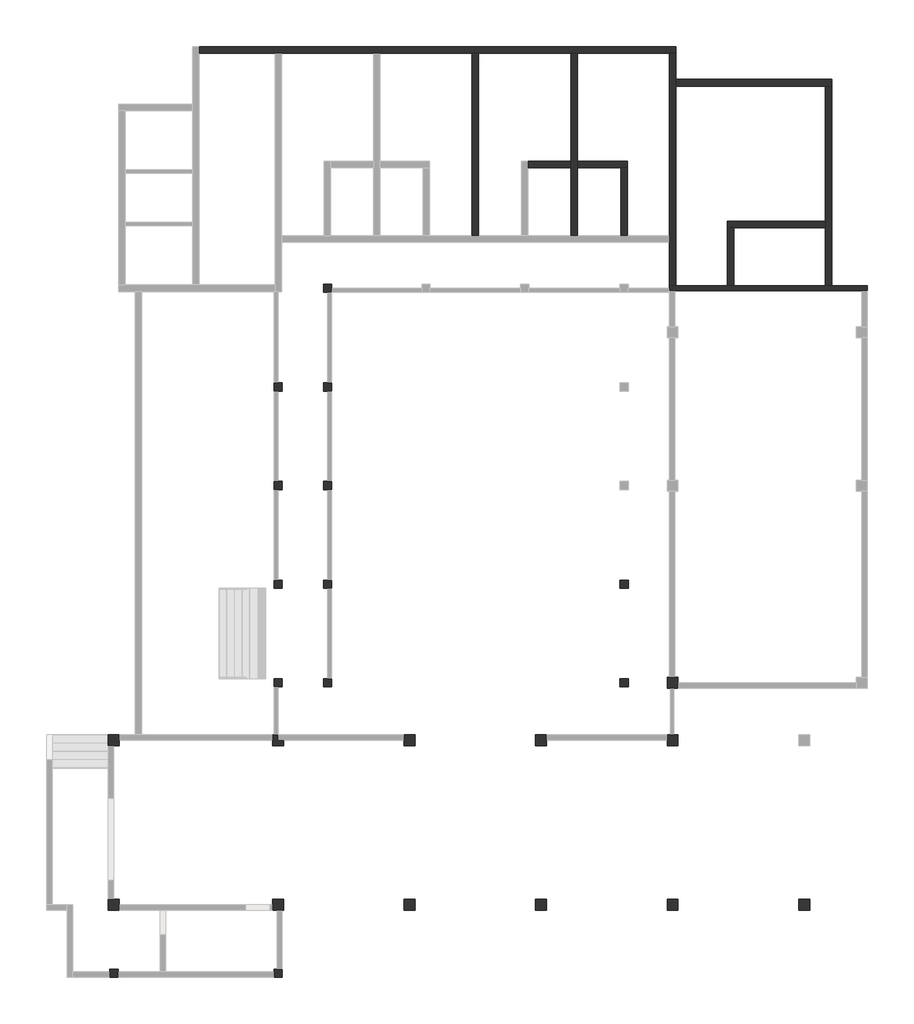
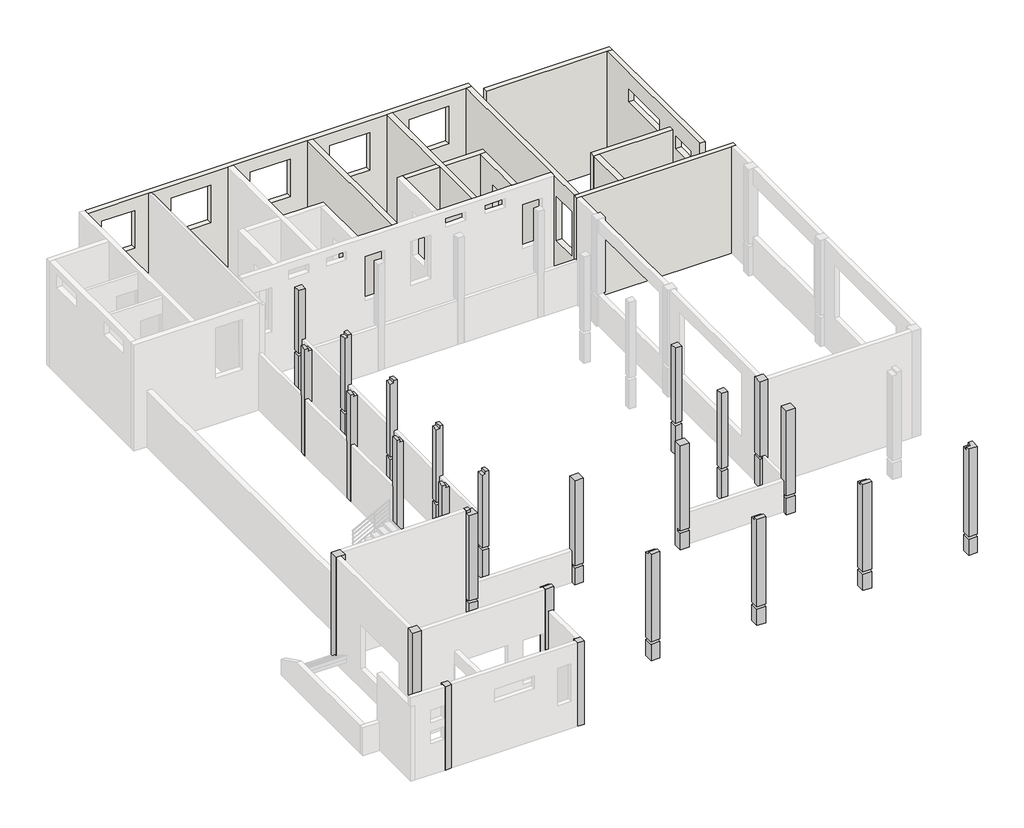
# One storey, part 2 of 3: 25 columns, 11 walls.
"""IFC4 building model written with IfcOpenShell, lengths in millimetres."""

from ifc_helpers import new_model, si_unit, frame, origin, place, context, project, spatial, polyline, outline, extrude, faceted_brep, element, save

model = new_model("IFC4")

# Units and contexts
model_context = context("Model", 3, world=origin())
ifc_project = project(units=[si_unit("LENGTHUNIT", "METRE", prefix="MILLI")], contexts=[model_context])

# Site, building, storey
site = spatial("IfcSite", under=ifc_project)
building = spatial("IfcBuilding", under=site)
storey = spatial("IfcBuildingStorey", under=building, Name="室外地坪", Elevation=-900.0)

# Columns
placement = place(None, origin())
element("IfcColumn", 1, ObjectType="混凝土 - 矩形 - 柱 : Z1-400 x 400mm", at=placement, inside=storey, context=model_context, shape_type="Brep", body=[
    faceted_brep([(11736.7377372, 2844.1658649, -900.0), (11736.7377372, 2644.1658649, -900.0), (11736.7377372, 2444.1658649, -900.0), (11576.7377372, 2444.1658649, -900.0), (11456.7377372, 2444.1658649, -900.0), (11336.7377372, 2444.1658649, -900.0), (11336.7377372, 2844.1658649, -900.0), (11416.7377372, 2844.1658649, -900.0), (11616.7377372, 2844.1658649, -900.0), (11736.7377372, 2844.1658649, 480.0), (11736.7377372, 2644.1658649, 480.0), (11736.7377372, 2644.1658649, 600.0), (11736.7377372, 2844.1658649, 600.0), (11736.7377372, 2844.1658649, 4200.0), (11736.7377372, 2644.1658649, 4200.0), (11736.7377372, 2444.1658649, 4200.0), (11336.7377372, 2444.1658649, 4200.0), (11336.7377372, 2444.1658649, 600.0), (11456.7377372, 2444.1658649, 600.0), (11456.7377372, 2444.1658649, 480.0), (11336.7377372, 2444.1658649, 480.0), (11336.7377372, 2844.1658649, 4200.0), (11336.7377372, 2844.1658649, 600.0), (11416.7377372, 2844.1658649, 4200.0), (11616.7377372, 2844.1658649, 4200.0), (11456.7377372, 2644.1658649, 480.0), (11336.7377372, 2844.1658649, 480.0), (11456.7377372, 2644.1658649, 600.0)], [[[0, 1, 2, 3, 4, 5, 6, 7, 8]], [[2, 1, 0, 9, 10, 11, 12, 13, 14, 15]], [[5, 4, 3, 2, 15, 16, 17, 18, 19, 20]], [[16, 21, 22, 17]], [[21, 23, 24, 13, 12, 22]], [[15, 14, 13, 24, 23, 21, 16]], [[19, 25, 10, 9, 26, 20]], [[11, 27, 18, 17, 22, 12]], [[25, 27, 11, 10]], [[27, 25, 19, 18]], [[6, 5, 20, 26]], [[0, 8, 7, 6, 26, 9]]]),
])
element("IfcColumn", 2, ObjectType="混凝土 - 矩形 - 柱 : Z1-400 x 400mm", at=placement, inside=storey, context=model_context, shape_type="Brep", body=[
    faceted_brep([(11736.7377372, 744.1658649, -900.0), (11736.7377372, 344.1658649, -900.0), (11336.7377372, 344.1658649, -900.0), (11336.7377372, 544.1658649, -900.0), (11336.7377372, 744.1658649, -900.0), (11456.7377372, 744.1658649, -900.0), (11576.7377372, 744.1658649, -900.0), (11736.7377372, 344.1658649, 0.0), (11736.7377372, 744.1658649, 0.0), (11736.7377372, 744.1658649, 4080.0), (11736.7377372, 344.1658649, 4080.0), (11336.7377372, 344.1658649, 0.0), (11336.7377372, 344.1658649, 4080.0), (11336.7377372, 344.1658649, -120.0), (11336.7377372, 549.1658649, -120.0), (11336.7377372, 549.1658649, 0.0), (11336.7377372, 744.1658649, 4080.0), (11336.7377372, 744.1658649, 600.0), (11576.7377372, 744.1658649, 0.0), (11576.7377372, 744.1658649, -120.0), (11736.7377372, 744.1658649, -120.0), (11576.7377372, 549.1658649, -120.0), (11736.7377372, 344.1658649, -120.0), (11576.7377372, 549.1658649, 0.0)], [[[0, 1, 2, 3, 4, 5, 6]], [[7, 8, 9, 10]], [[11, 7, 10, 12]], [[4, 3, 2, 13, 14, 15, 11, 12, 16, 17]], [[0, 6, 5, 4, 17, 16, 9, 8, 18, 19, 20]], [[19, 21, 14, 13, 22, 20]], [[23, 18, 8, 7, 11, 15]], [[21, 19, 18, 23]], [[1, 0, 20, 22]], [[2, 1, 22, 13]], [[21, 23, 15, 14]], [[10, 9, 16, 12]]]),
])
element("IfcColumn", 3, ObjectType="混凝土 - 矩形 - 柱 : Z1-400 x 400mm", at=placement, inside=storey, context=model_context, shape_type="Brep", body=[
    faceted_brep([(6936.7377372, 744.1658649, -900.0), (6936.7377372, 544.1658649, -900.0), (6936.7377372, 344.1658649, -900.0), (6536.7377372, 344.1658649, -900.0), (6536.7377372, 744.1658649, -900.0), (6936.7377372, 744.1658649, 600.0), (6936.7377372, 744.1658649, 4080.0), (6936.7377372, 344.1658649, 4080.0), (6936.7377372, 344.1658649, 0.0), (6936.7377372, 549.1658649, 0.0), (6936.7377372, 549.1658649, -120.0), (6936.7377372, 344.1658649, -120.0), (6536.7377372, 344.1658649, 0.0), (6536.7377372, 344.1658649, 4080.0), (6536.7377372, 344.1658649, -120.0), (6536.7377372, 549.1658649, -120.0), (6536.7377372, 549.1658649, 0.0), (6536.7377372, 744.1658649, 4080.0), (6536.7377372, 744.1658649, 0.0), (6536.7377372, 744.1658649, -120.0)], [[[0, 1, 2, 3, 4]], [[2, 1, 0, 5, 6, 7, 8, 9, 10, 11]], [[12, 8, 7, 13]], [[4, 3, 14, 15, 16, 12, 13, 17, 18, 19]], [[0, 4, 19, 18, 17, 6, 5]], [[11, 10, 15, 14]], [[9, 8, 12, 16]], [[3, 2, 11, 14]], [[15, 10, 9, 16]], [[7, 6, 17, 13]]]),
])
element("IfcColumn", 4, ObjectType="混凝土 - 矩形 - 柱 : Z1-400 x 400mm", at=placement, inside=storey, context=model_context, shape_type="Brep", body=[
    faceted_brep([(2136.7377372, 744.1658649, -900.0), (2136.7377372, 344.1658649, -900.0), (1736.7377372, 344.1658649, -900.0), (1736.7377372, 544.1658649, -900.0), (1736.7377372, 744.1658649, -900.0), (2136.7377372, 744.1658649, -120.0), (2136.7377372, 744.1658649, 0.0), (2136.7377372, 744.1658649, 4080.0), (2136.7377372, 344.1658649, 4080.0), (2136.7377372, 344.1658649, 0.0), (2136.7377372, 549.1658649, 0.0), (2136.7377372, 549.1658649, -120.0), (2136.7377372, 344.1658649, -120.0), (1736.7377372, 344.1658649, 0.0), (1736.7377372, 344.1658649, 4080.0), (1736.7377372, 344.1658649, -120.0), (1736.7377372, 549.1658649, -120.0), (1736.7377372, 549.1658649, 0.0), (1736.7377372, 744.1658649, 4080.0), (1736.7377372, 744.1658649, 600.0)], [[[0, 1, 2, 3, 4]], [[1, 0, 5, 6, 7, 8, 9, 10, 11, 12]], [[13, 9, 8, 14]], [[4, 3, 2, 15, 16, 17, 13, 14, 18, 19]], [[0, 4, 19, 18, 7, 6, 5]], [[11, 16, 15, 12]], [[17, 10, 9, 13]], [[16, 11, 10, 17]], [[2, 1, 12, 15]], [[8, 7, 18, 14]]]),
])
element("IfcColumn", 5, ObjectType="混凝土 - 矩形 - 柱 : Z1-400 x 400mm", at=placement, inside=storey, context=model_context, shape_type="Brep", body=[
    faceted_brep([(-2663.2622628, 744.1658649, -900.0), (-2663.2622628, 344.1658649, -900.0), (-3063.2622628, 344.1658649, -900.0), (-3063.2622628, 544.1658649, -900.0), (-3063.2622628, 744.1658649, -900.0), (-3013.2622628, 744.1658649, -900.0), (-2863.2622628, 744.1658649, -900.0), (-2663.2622628, 744.1658649, 4080.0), (-2663.2622628, 344.1658649, 4080.0), (-2663.2622628, 344.1658649, 0.0), (-2663.2622628, 549.1658649, 0.0), (-2663.2622628, 549.1658649, -120.0), (-2663.2622628, 344.1658649, -120.0), (-3063.2622628, 344.1658649, 0.0), (-3063.2622628, 344.1658649, 4080.0), (-3063.2622628, 344.1658649, -120.0), (-3063.2622628, 549.1658649, -120.0), (-3063.2622628, 549.1658649, 0.0), (-3063.2622628, 549.1658649, 4080.0), (-3063.2622628, 549.1658649, 4200.0), (-3063.2622628, 744.1658649, 4200.0), (-2868.2622628, 744.1658649, 4200.0), (-2868.2622628, 744.1658649, 4080.0), (-2868.2622628, 549.1658649, 4200.0), (-2868.2622628, 549.1658649, 4080.0)], [[[0, 1, 2, 3, 4, 5, 6]], [[1, 0, 7, 8, 9, 10, 11, 12]], [[13, 9, 8, 14]], [[4, 3, 2, 15, 16, 17, 13, 14, 18, 19, 20]], [[0, 6, 5, 4, 20, 21, 22, 7]], [[21, 20, 19, 23]], [[11, 16, 15, 12]], [[17, 10, 9, 13]], [[16, 11, 10, 17]], [[2, 1, 12, 15]], [[22, 24, 18, 14, 8, 7]], [[24, 23, 19, 18]], [[23, 24, 22, 21]]]),
])
element("IfcColumn", 6, ObjectType="混凝土 - 矩形 - 柱 : Z1-400 x 400mm", at=placement, inside=storey, context=model_context, shape_type="Brep", body=[
    faceted_brep([(-8663.2622628, 744.1658649, -900.0), (-8663.2622628, 544.1658649, -900.0), (-8663.2622628, 344.1658649, -900.0), (-8863.2622628, 344.1658649, -900.0), (-9063.2622628, 344.1658649, -900.0), (-9063.2622628, 744.1658649, -900.0), (-8663.2622628, 744.1658649, 4200.0), (-8663.2622628, 544.1658649, 4200.0), (-8663.2622628, 344.1658649, 4200.0), (-8663.2622628, 344.1658649, 0.0), (-8663.2622628, 549.1658649, 0.0), (-8663.2622628, 549.1658649, -120.0), (-8663.2622628, 344.1658649, -120.0), (-8863.2622628, 344.1658649, -120.0), (-8863.2622628, 344.1658649, 0.0), (-8863.2622628, 344.1658649, 4200.0), (-9063.2622628, 344.1658649, 4200.0), (-9063.2622628, 744.1658649, 4200.0), (-8863.2622628, 549.1658649, -120.0), (-8863.2622628, 549.1658649, 0.0)], [[[0, 1, 2, 3, 4, 5]], [[2, 1, 0, 6, 7, 8, 9, 10, 11, 12]], [[4, 3, 2, 12, 13, 14, 9, 8, 15, 16]], [[5, 4, 16, 17]], [[0, 5, 17, 6]], [[8, 7, 6, 17, 16, 15]], [[11, 18, 13, 12]], [[14, 19, 10, 9]], [[18, 19, 14, 13]], [[19, 18, 11, 10]]]),
])
element("IfcColumn", 7, ObjectType="混凝土 - 矩形 - 柱 : Z1-400 x 400mm", at=placement, inside=storey, context=model_context, shape_type="Brep", body=[
    faceted_brep([(-8663.2622628, -5255.8341351, -900.0), (-8663.2622628, -5455.8341351, -900.0), (-8663.2622628, -5655.8341351, -900.0), (-9063.2622628, -5655.8341351, -900.0), (-9063.2622628, -5255.8341351, -900.0), (-8863.2622628, -5255.8341351, -900.0), (-8663.2622628, -5655.8341351, -120.0), (-8663.2622628, -5255.8341351, -120.0), (-9063.2622628, -5255.8341351, -120.0), (-9063.2622628, -5655.8341351, -120.0)], [[[0, 1, 2, 3, 4, 5]], [[6, 7, 8, 9]], [[2, 1, 0, 7, 6]], [[3, 2, 6, 9]], [[4, 3, 9, 8]], [[0, 5, 4, 8, 7]]]),
    faceted_brep([(-8663.2622628, -5255.8341351, 4200.0), (-8663.2622628, -5455.8341351, 4200.0), (-8663.2622628, -5655.8341351, 4200.0), (-8663.2622628, -5655.8341351, 0.0), (-8663.2622628, -5255.8341351, 0.0), (-9063.2622628, -5655.8341351, 4200.0), (-9063.2622628, -5655.8341351, 0.0), (-9063.2622628, -5255.8341351, 4200.0), (-9063.2622628, -5255.8341351, 0.0), (-8863.2622628, -5255.8341351, 4200.0)], [[[0, 1, 2, 3, 4]], [[2, 5, 6, 3]], [[5, 7, 8, 6]], [[7, 9, 0, 4, 8]], [[2, 1, 0, 9, 7, 5]], [[4, 3, 6, 8]]]),
])
element("IfcColumn", 8, ObjectType="混凝土 - 矩形 - 柱 : Z1-400 x 400mm", at=placement, inside=storey, context=model_context, shape_type="Brep", body=[
    faceted_brep([(-2663.2622628, -5255.8341351, -900.0), (-2663.2622628, -5655.8341351, -900.0), (-2713.2622628, -5655.8341351, -900.0), (-2913.2622628, -5655.8341351, -900.0), (-3063.2622628, -5655.8341351, -900.0), (-3063.2622628, -5455.8341351, -900.0), (-3063.2622628, -5255.8341351, -900.0), (-2663.2622628, -5255.8341351, -120.0), (-2663.2622628, -5650.8341351, -120.0), (-2663.2622628, -5650.8341351, 0.0), (-2663.2622628, -5255.8341351, 0.0), (-2663.2622628, -5255.8341351, 4080.0), (-2663.2622628, -5460.8341351, 4080.0), (-2663.2622628, -5460.8341351, 4200.0), (-2663.2622628, -5655.8341351, 4200.0), (-3063.2622628, -5655.8341351, 4200.0), (-3063.2622628, -5655.8341351, 0.0), (-2908.2622628, -5655.8341351, 0.0), (-2908.2622628, -5655.8341351, -120.0), (-3063.2622628, -5655.8341351, -120.0), (-3063.2622628, -5460.8341351, 4200.0), (-3063.2622628, -5460.8341351, 4080.0), (-3063.2622628, -5255.8341351, 4080.0), (-3063.2622628, -5255.8341351, 0.0), (-2908.2622628, -5650.8341351, -120.0), (-3063.2622628, -5255.8341351, -120.0), (-2908.2622628, -5650.8341351, 0.0)], [[[0, 1, 2, 3, 4, 5, 6]], [[1, 0, 7, 8, 9, 10, 11, 12, 13, 14]], [[4, 3, 2, 1, 14, 15, 16, 17, 18, 19]], [[16, 15, 20, 21, 22, 23]], [[10, 23, 22, 11]], [[15, 14, 13, 20]], [[18, 24, 8, 7, 25, 19]], [[9, 26, 17, 16, 23, 10]], [[24, 26, 9, 8]], [[26, 24, 18, 17]], [[6, 5, 4, 19, 25]], [[0, 6, 25, 7]], [[21, 12, 11, 22]], [[12, 21, 20, 13]]]),
])
element("IfcColumn", 9, ObjectType="混凝土 - 矩形 - 柱 : Z1-400 x 400mm", at=placement, inside=storey, context=model_context, shape_type="Brep", body=[
    faceted_brep([(2136.7377372, -5255.8341351, -900.0), (2136.7377372, -5655.8341351, -900.0), (1736.7377372, -5655.8341351, -900.0), (1736.7377372, -5255.8341351, -900.0), (2136.7377372, -5655.8341351, -120.0), (2136.7377372, -5255.8341351, -120.0), (1736.7377372, -5255.8341351, -120.0), (1736.7377372, -5650.8341351, -120.0), (1736.7377372, -5655.8341351, -120.0)], [[[0, 1, 2, 3]], [[4, 5, 6, 7, 8]], [[1, 0, 5, 4]], [[2, 1, 4, 8]], [[3, 2, 8, 7, 6]], [[0, 3, 6, 5]]]),
    faceted_brep([(2136.7377372, -5655.8341351, 4200.0), (2136.7377372, -5655.8341351, 0.0), (2136.7377372, -5255.8341351, 0.0), (2136.7377372, -5255.8341351, 4080.0), (2136.7377372, -5460.8341351, 4080.0), (2136.7377372, -5460.8341351, 4200.0), (1736.7377372, -5655.8341351, 4200.0), (1736.7377372, -5655.8341351, 0.0), (1736.7377372, -5460.8341351, 4200.0), (1736.7377372, -5460.8341351, 4080.0), (1736.7377372, -5255.8341351, 4080.0), (1736.7377372, -5255.8341351, 0.0), (1736.7377372, -5650.8341351, 0.0)], [[[0, 1, 2, 3, 4, 5]], [[0, 6, 7, 1]], [[7, 6, 8, 9, 10, 11, 12]], [[2, 11, 10, 3]], [[6, 0, 5, 8]], [[2, 1, 7, 12, 11]], [[9, 4, 3, 10]], [[4, 9, 8, 5]]]),
])
element("IfcColumn", 10, ObjectType="混凝土 - 矩形 - 柱 : Z1-400 x 400mm", at=placement, inside=storey, context=model_context, shape_type="SweptSolid", body=[
    extrude(outline(polyline([(6936.7377372, -5255.8341351), (6936.7377372, -5655.8341351), (6536.7377372, -5655.8341351), (6536.7377372, -5255.8341351), (6936.7377372, -5255.8341351)])), frame((0.0, 0.0, -900.0), z_axis=(0.0, 0.0, 1.0), x_axis=(1.0, 0.0, 0.0)), (0.0, 0.0, 1.0), 780.0),
    extrude(outline(polyline([(-5655.8341351, 0.0), (-5655.8341351, 4200.0), (-5460.8341351, 4200.0), (-5460.8341351, 4080.0), (-5255.8341351, 4080.0), (-5255.8341351, 0.0), (-5655.8341351, 0.0)])), frame((6536.7377372, 0.0, 0.0), z_axis=(1.0, 0.0, 0.0), x_axis=(0.0, 1.0, 0.0)), (0.0, 0.0, 1.0), 400.0),
])
element("IfcColumn", 11, ObjectType="混凝土 - 矩形 - 柱 : Z1-400 x 400mm", at=placement, inside=storey, context=model_context, shape_type="SweptSolid", body=[
    extrude(outline(polyline([(11736.7377372, -5255.8341351), (11736.7377372, -5655.8341351), (11336.7377372, -5655.8341351), (11336.7377372, -5255.8341351), (11736.7377372, -5255.8341351)])), frame((0.0, 0.0, -900.0), z_axis=(0.0, 0.0, 1.0), x_axis=(1.0, 0.0, 0.0)), (0.0, 0.0, 1.0), 780.0),
    extrude(outline(polyline([(-5655.8341351, 0.0), (-5655.8341351, 4200.0), (-5460.8341351, 4200.0), (-5460.8341351, 4080.0), (-5255.8341351, 4080.0), (-5255.8341351, 0.0), (-5655.8341351, 0.0)])), frame((11336.7377372, 0.0, 0.0), z_axis=(1.0, 0.0, 0.0), x_axis=(0.0, 1.0, 0.0)), (0.0, 0.0, 1.0), 400.0),
])
element("IfcColumn", 12, ObjectType="混凝土 - 矩形 - 柱 : Z1-400 x 400mm", at=placement, inside=storey, context=model_context, shape_type="Brep", body=[
    faceted_brep([(16536.7377372, -5255.8341351, -900.0), (16536.7377372, -5655.8341351, -900.0), (16136.7377372, -5655.8341351, -900.0), (16136.7377372, -5255.8341351, -900.0), (16536.7377372, -5655.8341351, -120.0), (16536.7377372, -5255.8341351, -120.0), (16136.7377372, -5255.8341351, -120.0), (16136.7377372, -5655.8341351, -120.0)], [[[0, 1, 2, 3]], [[4, 5, 6, 7]], [[1, 0, 5, 4]], [[2, 1, 4, 7]], [[3, 2, 7, 6]], [[0, 3, 6, 5]]]),
    faceted_brep([(16536.7377372, -5255.8341351, 4200.0), (16536.7377372, -5655.8341351, 4200.0), (16536.7377372, -5655.8341351, 0.0), (16536.7377372, -5255.8341351, 0.0), (16136.7377372, -5655.8341351, 4200.0), (16136.7377372, -5655.8341351, 0.0), (16136.7377372, -5460.8341351, 4200.0), (16136.7377372, -5460.8341351, 4080.0), (16136.7377372, -5255.8341351, 4080.0), (16136.7377372, -5255.8341351, 0.0), (16341.7377372, -5255.8341351, 4080.0), (16341.7377372, -5255.8341351, 4200.0), (16341.7377372, -5460.8341351, 4200.0), (16341.7377372, -5460.8341351, 4080.0)], [[[0, 1, 2, 3]], [[1, 4, 5, 2]], [[5, 4, 6, 7, 8, 9]], [[0, 3, 9, 8, 10, 11]], [[1, 0, 11, 12, 6, 4]], [[3, 2, 5, 9]], [[7, 13, 10, 8]], [[13, 12, 11, 10]], [[12, 13, 7, 6]]]),
])
element("IfcColumn", 13, ObjectType="混凝土 - 矩形 - 柱 : Z2-300 x 300mm", at=placement, inside=storey, context=model_context, shape_type="Brep", body=[
    faceted_brep([(-913.2622628, 17194.1658649, -900.0), (-913.2622628, 17044.1658649, -900.0), (-913.2622628, 16894.1658649, -900.0), (-1063.2622628, 16894.1658649, -900.0), (-1213.2622628, 16894.1658649, -900.0), (-1213.2622628, 17194.1658649, -900.0), (-913.2622628, 17194.1658649, 1080.0), (-913.2622628, 17039.1658649, 1080.0), (-913.2622628, 17039.1658649, 1200.0), (-913.2622628, 17194.1658649, 1200.0), (-913.2622628, 17194.1658649, 4200.0), (-913.2622628, 16894.1658649, 4200.0), (-913.2622628, 16894.1658649, 1800.0), (-913.2622628, 16894.1658649, 1200.0), (-1213.2622628, 16894.1658649, 4200.0), (-1213.2622628, 16894.1658649, 1200.0), (-1063.2622628, 16894.1658649, 1200.0), (-1063.2622628, 16894.1658649, 1080.0), (-1213.2622628, 16894.1658649, 1080.0), (-1213.2622628, 17194.1658649, 4200.0), (-1213.2622628, 17194.1658649, 1200.0), (-1063.2622628, 17039.1658649, 1080.0), (-1213.2622628, 17194.1658649, 1080.0), (-1063.2622628, 17039.1658649, 1200.0)], [[[0, 1, 2, 3, 4, 5]], [[2, 1, 0, 6, 7, 8, 9, 10, 11, 12, 13]], [[4, 3, 2, 13, 12, 11, 14, 15, 16, 17, 18]], [[14, 19, 20, 15]], [[19, 10, 9, 20]], [[11, 10, 19, 14]], [[17, 21, 7, 6, 22, 18]], [[8, 23, 16, 15, 20, 9]], [[21, 23, 8, 7]], [[0, 5, 22, 6]], [[23, 21, 17, 16]], [[5, 4, 18, 22]]]),
])
element("IfcColumn", 14, ObjectType="混凝土 - 矩形 - 柱 : Z2-300 x 300mm", at=placement, inside=storey, context=model_context, shape_type="SweptSolid", body=[
    extrude(outline(polyline([(9916.7377372, 2794.1658649), (9916.7377372, 2494.1658649), (9616.7377372, 2494.1658649), (9616.7377372, 2794.1658649), (9916.7377372, 2794.1658649)])), frame((0.0, 0.0, -900.0), z_axis=(0.0, 0.0, 1.0), x_axis=(1.0, 0.0, 0.0)), (0.0, 0.0, 1.0), 1380.0),
    extrude(outline(polyline([(9916.7377372, 2794.1658649), (9916.7377372, 2494.1658649), (9616.7377372, 2494.1658649), (9616.7377372, 2794.1658649), (9916.7377372, 2794.1658649)])), frame((0.0, 0.0, 600.0), z_axis=(0.0, 0.0, 1.0), x_axis=(1.0, 0.0, 0.0)), (0.0, 0.0, 1.0), 3600.0),
])
element("IfcColumn", 15, ObjectType="混凝土 - 矩形 - 柱 : Z2-300 x 300mm", at=placement, inside=storey, context=model_context, shape_type="SweptSolid", body=[
    extrude(outline(polyline([(9916.7377372, 6394.1658649), (9916.7377372, 6094.1658649), (9616.7377372, 6094.1658649), (9616.7377372, 6394.1658649), (9916.7377372, 6394.1658649)])), frame((0.0, 0.0, -900.0), z_axis=(0.0, 0.0, 1.0), x_axis=(1.0, 0.0, 0.0)), (0.0, 0.0, 1.0), 1380.0),
    extrude(outline(polyline([(9916.7377372, 6394.1658649), (9916.7377372, 6094.1658649), (9616.7377372, 6094.1658649), (9616.7377372, 6394.1658649), (9916.7377372, 6394.1658649)])), frame((0.0, 0.0, 600.0), z_axis=(0.0, 0.0, 1.0), x_axis=(1.0, 0.0, 0.0)), (0.0, 0.0, 1.0), 3600.0),
])
element("IfcColumn", 16, ObjectType="混凝土 - 矩形 - 柱 : Z2-300 x 300mm", at=placement, inside=storey, context=model_context, shape_type="Brep", body=[
    faceted_brep([(-913.2622628, 13594.1658649, -900.0), (-913.2622628, 13294.1658649, -900.0), (-1063.2622628, 13294.1658649, -900.0), (-1213.2622628, 13294.1658649, -900.0), (-1213.2622628, 13594.1658649, -900.0), (-1063.2622628, 13594.1658649, -900.0), (-913.2622628, 13294.1658649, 480.0), (-913.2622628, 13594.1658649, 480.0), (-1213.2622628, 13594.1658649, 480.0), (-1213.2622628, 13294.1658649, 480.0)], [[[0, 1, 2, 3, 4, 5]], [[6, 7, 8, 9]], [[1, 0, 7, 6]], [[3, 2, 1, 6, 9]], [[4, 3, 9, 8]], [[0, 5, 4, 8, 7]]]),
    faceted_brep([(-913.2622628, 13594.1658649, 4200.0), (-913.2622628, 13294.1658649, 4200.0), (-913.2622628, 13294.1658649, 1800.0), (-913.2622628, 13294.1658649, 600.0), (-913.2622628, 13594.1658649, 600.0), (-913.2622628, 13594.1658649, 1800.0), (-1063.2622628, 13294.1658649, 4200.0), (-1063.2622628, 13294.1658649, 4080.0), (-1213.2622628, 13294.1658649, 4080.0), (-1213.2622628, 13294.1658649, 600.0), (-1213.2622628, 13594.1658649, 600.0), (-1213.2622628, 13594.1658649, 4080.0), (-1063.2622628, 13594.1658649, 4080.0), (-1063.2622628, 13594.1658649, 4200.0)], [[[0, 1, 2, 3, 4, 5]], [[3, 2, 1, 6, 7, 8, 9]], [[10, 9, 8, 11]], [[0, 5, 4, 10, 11, 12, 13]], [[1, 0, 13, 6]], [[4, 3, 9, 10]], [[7, 12, 11, 8]], [[12, 7, 6, 13]]]),
])
element("IfcColumn", 17, ObjectType="混凝土 - 矩形 - 柱 : Z2-300 x 300mm", at=placement, inside=storey, context=model_context, shape_type="Brep", body=[
    faceted_brep([(-2713.2622628, 13594.1658649, -900.0), (-2713.2622628, 13294.1658649, -900.0), (-2863.2622628, 13294.1658649, -900.0), (-3013.2622628, 13294.1658649, -900.0), (-3013.2622628, 13594.1658649, -900.0), (-2863.2622628, 13594.1658649, -900.0), (-2713.2622628, 13594.1658649, 4080.0), (-2713.2622628, 13294.1658649, 4080.0), (-2868.2622628, 13294.1658649, 4080.0), (-2868.2622628, 13294.1658649, 4200.0), (-3013.2622628, 13294.1658649, 4200.0), (-3013.2622628, 13294.1658649, 4080.0), (-3013.2622628, 13294.1658649, 1800.0), (-3013.2622628, 13594.1658649, 4200.0), (-3013.2622628, 13594.1658649, 4080.0), (-3013.2622628, 13594.1658649, 1800.0), (-2868.2622628, 13594.1658649, 4200.0), (-2868.2622628, 13594.1658649, 4080.0)], [[[0, 1, 2, 3, 4, 5]], [[1, 0, 6, 7]], [[3, 2, 1, 7, 8, 9, 10, 11, 12]], [[4, 3, 12, 11, 10, 13, 14, 15]], [[0, 5, 4, 15, 14, 13, 16, 17, 6]], [[13, 10, 9, 16]], [[17, 8, 7, 6]], [[8, 17, 16, 9]]]),
])
element("IfcColumn", 18, ObjectType="混凝土 - 矩形 - 柱 : Z2-300 x 300mm", at=placement, inside=storey, context=model_context, shape_type="Brep", body=[
    faceted_brep([(-2713.2622628, 9994.1658649, -900.0), (-2713.2622628, 9694.1658649, -900.0), (-2863.2622628, 9694.1658649, -900.0), (-3013.2622628, 9694.1658649, -900.0), (-3013.2622628, 9994.1658649, -900.0), (-2863.2622628, 9994.1658649, -900.0), (-2713.2622628, 9994.1658649, 4080.0), (-2713.2622628, 9694.1658649, 4080.0), (-2868.2622628, 9694.1658649, 4080.0), (-2868.2622628, 9694.1658649, 4200.0), (-3013.2622628, 9694.1658649, 4200.0), (-3013.2622628, 9694.1658649, 4080.0), (-3013.2622628, 9694.1658649, 1800.0), (-3013.2622628, 9994.1658649, 4200.0), (-3013.2622628, 9994.1658649, 4080.0), (-3013.2622628, 9994.1658649, 1800.0), (-2868.2622628, 9994.1658649, 4200.0), (-2868.2622628, 9994.1658649, 4080.0)], [[[0, 1, 2, 3, 4, 5]], [[1, 0, 6, 7]], [[3, 2, 1, 7, 8, 9, 10, 11, 12]], [[4, 3, 12, 11, 10, 13, 14, 15]], [[0, 5, 4, 15, 14, 13, 16, 17, 6]], [[13, 10, 9, 16]], [[17, 8, 7, 6]], [[8, 17, 16, 9]]]),
])
element("IfcColumn", 19, ObjectType="混凝土 - 矩形 - 柱 : Z2-300 x 300mm", at=placement, inside=storey, context=model_context, shape_type="Brep", body=[
    faceted_brep([(-913.2622628, 9994.1658649, -900.0), (-913.2622628, 9694.1658649, -900.0), (-1063.2622628, 9694.1658649, -900.0), (-1213.2622628, 9694.1658649, -900.0), (-1213.2622628, 9994.1658649, -900.0), (-1063.2622628, 9994.1658649, -900.0), (-913.2622628, 9694.1658649, 480.0), (-913.2622628, 9994.1658649, 480.0), (-1213.2622628, 9994.1658649, 480.0), (-1213.2622628, 9694.1658649, 480.0)], [[[0, 1, 2, 3, 4, 5]], [[6, 7, 8, 9]], [[1, 0, 7, 6]], [[3, 2, 1, 6, 9]], [[4, 3, 9, 8]], [[0, 5, 4, 8, 7]]]),
    faceted_brep([(-913.2622628, 9994.1658649, 4200.0), (-913.2622628, 9694.1658649, 4200.0), (-913.2622628, 9694.1658649, 1800.0), (-913.2622628, 9694.1658649, 600.0), (-913.2622628, 9994.1658649, 600.0), (-913.2622628, 9994.1658649, 1800.0), (-1063.2622628, 9694.1658649, 4200.0), (-1063.2622628, 9694.1658649, 4080.0), (-1213.2622628, 9694.1658649, 4080.0), (-1213.2622628, 9694.1658649, 600.0), (-1213.2622628, 9994.1658649, 600.0), (-1213.2622628, 9994.1658649, 4080.0), (-1063.2622628, 9994.1658649, 4080.0), (-1063.2622628, 9994.1658649, 4200.0)], [[[0, 1, 2, 3, 4, 5]], [[3, 2, 1, 6, 7, 8, 9]], [[10, 9, 8, 11]], [[0, 5, 4, 10, 11, 12, 13]], [[1, 0, 13, 6]], [[4, 3, 9, 10]], [[7, 12, 11, 8]], [[12, 7, 6, 13]]]),
])
element("IfcColumn", 20, ObjectType="混凝土 - 矩形 - 柱 : Z2-300 x 300mm", at=placement, inside=storey, context=model_context, shape_type="Brep", body=[
    faceted_brep([(-2713.2622628, 6394.1658649, -900.0), (-2713.2622628, 6094.1658649, -900.0), (-3013.2622628, 6094.1658649, -900.0), (-3013.2622628, 6394.1658649, -900.0), (-2713.2622628, 6394.1658649, 4080.0), (-2713.2622628, 6094.1658649, 4080.0), (-2868.2622628, 6094.1658649, 4080.0), (-2868.2622628, 6094.1658649, 4200.0), (-3013.2622628, 6094.1658649, 4200.0), (-3013.2622628, 6094.1658649, -450.0), (-3013.2622628, 6094.1658649, -570.0), (-3013.2622628, 6394.1658649, 4200.0), (-2868.2622628, 6394.1658649, 4200.0), (-2868.2622628, 6394.1658649, 4080.0)], [[[0, 1, 2, 3]], [[1, 0, 4, 5]], [[2, 1, 5, 6, 7, 8, 9, 10]], [[3, 2, 10, 9, 8, 11]], [[0, 3, 11, 12, 13, 4]], [[11, 8, 7, 12]], [[13, 6, 5, 4]], [[6, 13, 12, 7]]]),
])
element("IfcColumn", 21, ObjectType="混凝土 - 矩形 - 柱 : Z2-300 x 300mm", at=placement, inside=storey, context=model_context, shape_type="Brep", body=[
    faceted_brep([(-913.2622628, 6394.1658649, -900.0), (-913.2622628, 6094.1658649, -900.0), (-1063.2622628, 6094.1658649, -900.0), (-1213.2622628, 6094.1658649, -900.0), (-1213.2622628, 6394.1658649, -900.0), (-1063.2622628, 6394.1658649, -900.0), (-913.2622628, 6094.1658649, 480.0), (-913.2622628, 6394.1658649, 480.0), (-1213.2622628, 6394.1658649, 480.0), (-1213.2622628, 6094.1658649, 480.0)], [[[0, 1, 2, 3, 4, 5]], [[6, 7, 8, 9]], [[1, 0, 7, 6]], [[3, 2, 1, 6, 9]], [[4, 3, 9, 8]], [[0, 5, 4, 8, 7]]]),
    faceted_brep([(-913.2622628, 6394.1658649, 4200.0), (-913.2622628, 6094.1658649, 4200.0), (-913.2622628, 6094.1658649, 1800.0), (-913.2622628, 6094.1658649, 600.0), (-913.2622628, 6394.1658649, 600.0), (-913.2622628, 6394.1658649, 1800.0), (-1063.2622628, 6094.1658649, 4200.0), (-1063.2622628, 6094.1658649, 4080.0), (-1213.2622628, 6094.1658649, 4080.0), (-1213.2622628, 6094.1658649, 600.0), (-1213.2622628, 6394.1658649, 600.0), (-1213.2622628, 6394.1658649, 4080.0), (-1063.2622628, 6394.1658649, 4080.0), (-1063.2622628, 6394.1658649, 4200.0)], [[[0, 1, 2, 3, 4, 5]], [[3, 2, 1, 6, 7, 8, 9]], [[10, 9, 8, 11]], [[0, 5, 4, 10, 11, 12, 13]], [[1, 0, 13, 6]], [[4, 3, 9, 10]], [[7, 12, 11, 8]], [[12, 7, 6, 13]]]),
])
element("IfcColumn", 22, ObjectType="混凝土 - 矩形 - 柱 : Z2-300 x 300mm", at=placement, inside=storey, context=model_context, shape_type="Brep", body=[
    faceted_brep([(-913.2622628, 2794.1658649, -900.0), (-913.2622628, 2494.1658649, -900.0), (-1213.2622628, 2494.1658649, -900.0), (-1213.2622628, 2794.1658649, -900.0), (-1063.2622628, 2794.1658649, -900.0), (-913.2622628, 2494.1658649, 480.0), (-913.2622628, 2794.1658649, 480.0), (-1213.2622628, 2794.1658649, 480.0), (-1213.2622628, 2494.1658649, 480.0)], [[[0, 1, 2, 3, 4]], [[5, 6, 7, 8]], [[1, 0, 6, 5]], [[2, 1, 5, 8]], [[3, 2, 8, 7]], [[0, 4, 3, 7, 6]]]),
    faceted_brep([(-913.2622628, 2794.1658649, 4200.0), (-913.2622628, 2494.1658649, 4200.0), (-913.2622628, 2494.1658649, 600.0), (-913.2622628, 2794.1658649, 600.0), (-913.2622628, 2794.1658649, 1800.0), (-1063.2622628, 2494.1658649, 4200.0), (-1063.2622628, 2494.1658649, 4080.0), (-1213.2622628, 2494.1658649, 4080.0), (-1213.2622628, 2494.1658649, 600.0), (-1213.2622628, 2794.1658649, 600.0), (-1213.2622628, 2794.1658649, 4080.0), (-1063.2622628, 2794.1658649, 4080.0), (-1063.2622628, 2794.1658649, 4200.0)], [[[0, 1, 2, 3, 4]], [[2, 1, 5, 6, 7, 8]], [[9, 8, 7, 10]], [[0, 4, 3, 9, 10, 11, 12]], [[1, 0, 12, 5]], [[3, 2, 8, 9]], [[6, 11, 10, 7]], [[11, 6, 5, 12]]]),
])
element("IfcColumn", 23, ObjectType="混凝土 - 矩形 - 柱 : Z2-300 x 300mm", at=placement, inside=storey, context=model_context, shape_type="Brep", body=[
    faceted_brep([(-2713.2622628, 2794.1658649, -900.0), (-2713.2622628, 2494.1658649, -900.0), (-2863.2622628, 2494.1658649, -900.0), (-3013.2622628, 2494.1658649, -900.0), (-3013.2622628, 2794.1658649, -900.0), (-2713.2622628, 2794.1658649, 4080.0), (-2713.2622628, 2494.1658649, 4080.0), (-2868.2622628, 2494.1658649, 4080.0), (-2868.2622628, 2494.1658649, 4200.0), (-3013.2622628, 2494.1658649, 4200.0), (-3013.2622628, 2494.1658649, 4080.0), (-3013.2622628, 2494.1658649, 1800.0), (-3013.2622628, 2794.1658649, 4200.0), (-3013.2622628, 2794.1658649, 4080.0), (-2868.2622628, 2794.1658649, 4200.0), (-2868.2622628, 2794.1658649, 4080.0)], [[[0, 1, 2, 3, 4]], [[1, 0, 5, 6]], [[3, 2, 1, 6, 7, 8, 9, 10, 11]], [[4, 3, 11, 10, 9, 12, 13]], [[0, 4, 13, 12, 14, 15, 5]], [[12, 9, 8, 14]], [[15, 7, 6, 5]], [[7, 15, 14, 8]]]),
])
element("IfcColumn", 24, ObjectType="混凝土 - 矩形 - 柱 : Z2-300 x 300mm", at=placement, inside=storey, context=model_context, shape_type="Brep", body=[
    faceted_brep([(-8713.2622628, -7805.8341351, -900.0), (-8713.2622628, -7905.8341351, -900.0), (-8713.2622628, -8105.8341351, -900.0), (-9013.2622628, -8105.8341351, -900.0), (-9013.2622628, -7905.8341351, -900.0), (-9013.2622628, -7805.8341351, -900.0), (-8713.2622628, -7805.8341351, 3100.0), (-8713.2622628, -7905.8341351, 3100.0), (-8713.2622628, -8105.8341351, 3100.0), (-9013.2622628, -8105.8341351, 3100.0), (-9013.2622628, -7905.8341351, 3100.0), (-9013.2622628, -7805.8341351, 3100.0)], [[[0, 1, 2, 3, 4, 5]], [[6, 7, 8, 2, 1, 0]], [[8, 9, 3, 2]], [[9, 10, 11, 5, 4, 3]], [[11, 6, 0, 5]], [[6, 11, 10, 9, 8, 7]]]),
])
element("IfcColumn", 25, ObjectType="混凝土 - 矩形 - 柱 : Z2-300 x 300mm", at=placement, inside=storey, context=model_context, shape_type="Brep", body=[
    faceted_brep([(-2713.2622628, -7805.8341351, -900.0), (-2713.2622628, -8105.8341351, -900.0), (-3013.2622628, -8105.8341351, -900.0), (-3013.2622628, -7905.8341351, -900.0), (-3013.2622628, -7805.8341351, -900.0), (-2913.2622628, -7805.8341351, -900.0), (-2713.2622628, -7805.8341351, 3100.0), (-2713.2622628, -8105.8341351, 3100.0), (-3013.2622628, -8105.8341351, 3100.0), (-3013.2622628, -7905.8341351, 3100.0), (-3013.2622628, -7805.8341351, 3100.0), (-2913.2622628, -7805.8341351, 3100.0)], [[[0, 1, 2, 3, 4, 5]], [[6, 7, 1, 0]], [[7, 8, 2, 1]], [[8, 9, 10, 4, 3, 2]], [[10, 11, 6, 0, 5, 4]], [[6, 11, 10, 9, 8, 7]]]),
])

# Walls
element("IfcWall", 26, ObjectType="240mm厚墙", at=placement, inside=storey, context=model_context, shape_type="Brep", body=[
    faceted_brep([(-5743.2622628, 25624.1658649, -900.0), (-2983.2622628, 25624.1658649, -900.0), (-2743.2622628, 25624.1658649, -900.0), (616.7377372, 25624.1658649, -900.0), (856.7377372, 25624.1658649, -900.0), (4216.7377372, 25624.1658649, -900.0), (4456.7377372, 25624.1658649, -900.0), (7816.7377372, 25624.1658649, -900.0), (8056.7377372, 25624.1658649, -900.0), (11416.7377372, 25624.1658649, -900.0), (11656.7377372, 25624.1658649, -900.0), (11656.7377372, 25624.1658649, 4200.0), (11416.7377372, 25624.1658649, 4200.0), (8056.7377372, 25624.1658649, 4200.0), (7816.7377372, 25624.1658649, 4200.0), (4456.7377372, 25624.1658649, 4200.0), (4216.7377372, 25624.1658649, 4200.0), (856.7377372, 25624.1658649, 4200.0), (616.7377372, 25624.1658649, 4200.0), (-2743.2622628, 25624.1658649, 4200.0), (-2983.2622628, 25624.1658649, 4200.0), (-5743.2622628, 25624.1658649, 4200.0), (-5113.2622628, 25624.1658649, 3600.0), (-3613.2622628, 25624.1658649, 3600.0), (-3613.2622628, 25624.1658649, 1800.0), (-5113.2622628, 25624.1658649, 1800.0), (-163.2622628, 25624.1658649, 3600.0), (-163.2622628, 25624.1658649, 1800.0), (-1963.2622628, 25624.1658649, 1800.0), (-1963.2622628, 25624.1658649, 3600.0), (1636.7377372, 25624.1658649, 3600.0), (3436.7377372, 25624.1658649, 3600.0), (3436.7377372, 25624.1658649, 1800.0), (1636.7377372, 25624.1658649, 1800.0), (5236.7377372, 25624.1658649, 3600.0), (7036.7377372, 25624.1658649, 3600.0), (7036.7377372, 25624.1658649, 1800.0), (5236.7377372, 25624.1658649, 1800.0), (8836.7377372, 25624.1658649, 3600.0), (10636.7377372, 25624.1658649, 3600.0), (10636.7377372, 25624.1658649, 1800.0), (8836.7377372, 25624.1658649, 1800.0), (-5743.2622628, 25864.1658649, -900.0), (-5743.2622628, 25864.1658649, 4200.0), (11656.7377372, 25864.1658649, 4200.0), (11656.7377372, 25864.1658649, -900.0), (-5113.2622628, 25864.1658649, 3600.0), (-5113.2622628, 25864.1658649, 1800.0), (-3613.2622628, 25864.1658649, 1800.0), (-3613.2622628, 25864.1658649, 3600.0), (-163.2622628, 25864.1658649, 3600.0), (-1963.2622628, 25864.1658649, 3600.0), (-1963.2622628, 25864.1658649, 1800.0), (-163.2622628, 25864.1658649, 1800.0), (1636.7377372, 25864.1658649, 3600.0), (1636.7377372, 25864.1658649, 1800.0), (3436.7377372, 25864.1658649, 1800.0), (3436.7377372, 25864.1658649, 3600.0), (5236.7377372, 25864.1658649, 3600.0), (5236.7377372, 25864.1658649, 1800.0), (7036.7377372, 25864.1658649, 1800.0), (7036.7377372, 25864.1658649, 3600.0), (8836.7377372, 25864.1658649, 3600.0), (8836.7377372, 25864.1658649, 1800.0), (10636.7377372, 25864.1658649, 1800.0), (10636.7377372, 25864.1658649, 3600.0)], [[[0, 1, 2, 3, 4, 5, 6, 7, 8, 9, 10, 11, 12, 13, 14, 15, 16, 17, 18, 19, 20, 21], [22, 23, 24, 25], [26, 27, 28, 29], [30, 31, 32, 33], [34, 35, 36, 37], [38, 39, 40, 41]], [[42, 43, 44, 45], [46, 47, 48, 49], [50, 51, 52, 53], [54, 55, 56, 57], [58, 59, 60, 61], [62, 63, 64, 65]], [[10, 9, 8, 7, 6, 5, 4, 3, 2, 1, 0, 42, 45]], [[21, 20, 19, 18, 17, 16, 15, 14, 13, 12, 11, 44, 43]], [[0, 21, 43, 42]], [[11, 10, 45, 44]], [[47, 46, 22, 25]], [[48, 47, 25, 24]], [[49, 48, 24, 23]], [[46, 49, 23, 22]], [[27, 26, 50, 53]], [[28, 27, 53, 52]], [[29, 28, 52, 51]], [[26, 29, 51, 50]], [[55, 54, 30, 33]], [[56, 55, 33, 32]], [[57, 56, 32, 31]], [[54, 57, 31, 30]], [[59, 58, 34, 37]], [[60, 59, 37, 36]], [[61, 60, 36, 35]], [[58, 61, 35, 34]], [[63, 62, 38, 41]], [[64, 63, 41, 40]], [[65, 64, 40, 39]], [[62, 65, 39, 38]]]),
])
element("IfcWall", 27, ObjectType="240mm厚墙", at=placement, inside=storey, context=model_context, shape_type="Brep", body=[
    faceted_brep([(11416.7377372, 25624.1658649, -900.0), (11416.7377372, 18964.1658649, -900.0), (11416.7377372, 18724.1658649, -900.0), (11416.7377372, 17144.1658649, -900.0), (11416.7377372, 17144.1658649, 4200.0), (11416.7377372, 18724.1658649, 4200.0), (11416.7377372, 18964.1658649, 4200.0), (11416.7377372, 25624.1658649, 4200.0), (11416.7377372, 17334.1658649, 1200.0), (11416.7377372, 18534.1658649, 1200.0), (11416.7377372, 18534.1658649, 3300.0), (11416.7377372, 17334.1658649, 3300.0), (11656.7377372, 25624.1658649, -900.0), (11656.7377372, 25624.1658649, 4200.0), (11656.7377372, 17144.1658649, 4200.0), (11656.7377372, 17144.1658649, -900.0), (11656.7377372, 24424.1658649, -900.0), (11656.7377372, 24664.1658649, -900.0), (11656.7377372, 17334.1658649, 1200.0), (11656.7377372, 17334.1658649, 3300.0), (11656.7377372, 18534.1658649, 3300.0), (11656.7377372, 18534.1658649, 1200.0)], [[[0, 1, 2, 3, 4, 5, 6, 7], [8, 9, 10, 11]], [[12, 13, 14, 15, 16, 17], [18, 19, 20, 21]], [[3, 2, 1, 0, 12, 17, 16, 15]], [[7, 6, 5, 4, 14, 13]], [[0, 7, 13, 12]], [[3, 15, 14, 4]], [[19, 18, 8, 11]], [[20, 19, 11, 10]], [[21, 20, 10, 9]], [[18, 21, 9, 8]]]),
])
element("IfcWall", 28, ObjectType="240mm厚墙", at=placement, inside=storey, context=model_context, shape_type="Brep", body=[
    faceted_brep([(11656.7377372, 24424.1658649, 4700.0), (11656.7377372, 24424.1658649, -900.0), (17116.7377372, 24424.1658649, -900.0), (17356.7377372, 24424.1658649, -900.0), (17356.7377372, 24424.1658649, 4700.0), (17116.7377372, 24424.1658649, 4700.0), (11656.7377372, 24664.1658649, -900.0), (11656.7377372, 24664.1658649, 4700.0), (17356.7377372, 24664.1658649, 4700.0), (17356.7377372, 24664.1658649, -900.0)], [[[0, 1, 2, 3, 4, 5]], [[6, 7, 8, 9]], [[3, 2, 1, 6, 9]], [[0, 5, 4, 8, 7]], [[4, 3, 9, 8]], [[0, 7, 6, 1]]]),
])
element("IfcWall", 29, ObjectType="240mm厚墙", at=placement, inside=storey, context=model_context, shape_type="Brep", body=[
    faceted_brep([(17116.7377372, 24424.1658649, -900.0), (17116.7377372, 19484.1658649, -900.0), (17116.7377372, 19244.1658649, -900.0), (17116.7377372, 17144.1658649, -900.0), (17116.7377372, 17144.1658649, 4700.0), (17116.7377372, 24424.1658649, 4700.0), (17116.7377372, 17844.1658649, 3900.0), (17116.7377372, 17844.1658649, 3300.0), (17116.7377372, 19044.1658649, 3300.0), (17116.7377372, 19044.1658649, 3900.0), (17116.7377372, 22744.1658649, 3300.0), (17116.7377372, 22744.1658649, 3900.0), (17116.7377372, 20344.1658649, 3900.0), (17116.7377372, 20344.1658649, 3300.0), (17356.7377372, 17144.1658649, -900.0), (17356.7377372, 24424.1658649, -900.0), (17356.7377372, 24424.1658649, 4700.0), (17356.7377372, 17144.1658649, 4700.0), (17356.7377372, 17844.1658649, 3300.0), (17356.7377372, 17844.1658649, 3900.0), (17356.7377372, 19044.1658649, 3900.0), (17356.7377372, 19044.1658649, 3300.0), (17356.7377372, 22744.1658649, 3900.0), (17356.7377372, 22744.1658649, 3300.0), (17356.7377372, 20344.1658649, 3300.0), (17356.7377372, 20344.1658649, 3900.0)], [[[0, 1, 2, 3, 4, 5], [6, 7, 8, 9], [10, 11, 12, 13]], [[14, 15, 16, 17], [18, 19, 20, 21], [22, 23, 24, 25]], [[3, 2, 1, 0, 15, 14]], [[5, 4, 17, 16]], [[0, 5, 16, 15]], [[3, 14, 17, 4]], [[18, 7, 6, 19]], [[20, 9, 8, 21]], [[7, 18, 21, 8]], [[9, 20, 19, 6]], [[11, 10, 23, 22]], [[12, 11, 22, 25]], [[13, 12, 25, 24]], [[10, 13, 24, 23]]]),
])
element("IfcWall", 30, ObjectType="240mm厚墙", at=placement, inside=storey, context=model_context, shape_type="SweptSolid", body=[
    extrude(outline(polyline([(4216.7377372, 18964.1658649), (4216.7377372, 25624.1658649), (4456.7377372, 25624.1658649), (4456.7377372, 18964.1658649), (4216.7377372, 18964.1658649)])), frame((0.0, 0.0, -900.0), z_axis=(0.0, 0.0, 1.0), x_axis=(1.0, 0.0, 0.0)), (0.0, 0.0, 1.0), 5100.0),
])
element("IfcWall", 31, ObjectType="240mm厚墙", at=placement, inside=storey, context=model_context, shape_type="Brep", body=[
    faceted_brep([(7816.7377372, 25624.1658649, -900.0), (7816.7377372, 21684.1658649, -900.0), (7816.7377372, 21444.1658649, -900.0), (7816.7377372, 18964.1658649, -900.0), (7816.7377372, 18964.1658649, 4200.0), (7816.7377372, 21444.1658649, 4200.0), (7816.7377372, 21684.1658649, 4200.0), (7816.7377372, 25624.1658649, 4200.0), (8056.7377372, 25624.1658649, -900.0), (8056.7377372, 25624.1658649, 4200.0), (8056.7377372, 21684.1658649, 4200.0), (8056.7377372, 21444.1658649, 4200.0), (8056.7377372, 18964.1658649, 4200.0), (8056.7377372, 18964.1658649, -900.0), (8056.7377372, 21444.1658649, -900.0), (8056.7377372, 21684.1658649, -900.0)], [[[0, 1, 2, 3, 4, 5, 6, 7]], [[8, 9, 10, 11, 12, 13, 14, 15]], [[3, 2, 1, 0, 8, 15, 14, 13]], [[7, 6, 5, 4, 12, 11, 10, 9]], [[0, 7, 9, 8]], [[4, 3, 13, 12]]]),
])
element("IfcWall", 32, ObjectType="200mm厚墙", at=placement, inside=storey, context=model_context, shape_type="Brep", body=[
    faceted_brep([(11416.7377372, 16944.1658649, 4200.0), (11416.7377372, 16944.1658649, -900.0), (11616.7377372, 16944.1658649, -900.0), (18436.7377372, 16944.1658649, -900.0), (18636.7377372, 16944.1658649, -900.0), (18636.7377372, 16944.1658649, 4200.0), (18436.7377372, 16944.1658649, 4200.0), (11616.7377372, 16944.1658649, 4200.0), (11416.7377372, 17144.1658649, -900.0), (11416.7377372, 17144.1658649, 4200.0), (11656.7377372, 17144.1658649, 4200.0), (18636.7377372, 17144.1658649, 4200.0), (18636.7377372, 17144.1658649, -900.0), (17356.7377372, 17144.1658649, -900.0), (17116.7377372, 17144.1658649, -900.0), (13766.7377372, 17144.1658649, -900.0), (13526.7377372, 17144.1658649, -900.0), (11656.7377372, 17144.1658649, -900.0), (11416.7377372, 17044.1658649, -900.0)], [[[0, 1, 2, 3, 4, 5, 6, 7]], [[8, 9, 10, 11, 12, 13, 14, 15, 16, 17]], [[4, 3, 2, 1, 18, 8, 17, 16, 15, 14, 13, 12]], [[0, 7, 6, 5, 11, 10, 9]], [[5, 4, 12, 11]], [[0, 9, 8, 18, 1]]]),
])
element("IfcWall", 33, ObjectType="240mm厚墙", at=placement, inside=storey, context=model_context, shape_type="Brep", body=[
    faceted_brep([(6256.7377372, 21444.1658649, 4200.0), (6256.7377372, 21444.1658649, -900.0), (7816.7377372, 21444.1658649, -900.0), (7816.7377372, 21444.1658649, 4200.0), (6256.7377372, 21684.1658649, -900.0), (6256.7377372, 21684.1658649, 4200.0), (7816.7377372, 21684.1658649, 4200.0), (7816.7377372, 21684.1658649, -900.0)], [[[0, 1, 2, 3]], [[4, 5, 6, 7]], [[1, 4, 7, 2]], [[5, 0, 3, 6]], [[1, 0, 5, 4]], [[3, 2, 7, 6]]]),
    faceted_brep([(9886.7377372, 21444.1658649, -900.0), (9886.7377372, 21444.1658649, 4200.0), (9646.7377372, 21444.1658649, 4200.0), (8056.7377372, 21444.1658649, 4200.0), (8056.7377372, 21444.1658649, -900.0), (9646.7377372, 21444.1658649, -900.0), (9886.7377372, 21684.1658649, 4200.0), (9886.7377372, 21684.1658649, -900.0), (8056.7377372, 21684.1658649, -900.0), (8056.7377372, 21684.1658649, 4200.0)], [[[0, 1, 2, 3, 4, 5]], [[6, 7, 8, 9]], [[7, 0, 5, 4, 8]], [[1, 6, 9, 3, 2]], [[4, 3, 9, 8]], [[1, 0, 7, 6]]]),
])
element("IfcWall", 34, ObjectType="240mm厚墙", at=placement, inside=storey, context=model_context, shape_type="SweptSolid", body=[
    extrude(outline(polyline([(21444.1658649, -900.0), (18964.1658649, -900.0), (18964.1658649, 4200.0), (21444.1658649, 4200.0), (21444.1658649, -900.0)]), holes=[polyline([(20459.1658649, 1200.0), (20459.1658649, 3300.0), (19559.1658649, 3300.0), (19559.1658649, 1200.0), (20459.1658649, 1200.0)])]), frame((9646.7377372, 0.0, 0.0), z_axis=(1.0, 0.0, 0.0), x_axis=(0.0, 1.0, 0.0)), (0.0, 0.0, 1.0), 240.0),
])
element("IfcWall", 35, ObjectType="240mm厚墙", at=placement, inside=storey, context=model_context, shape_type="Brep", body=[
    faceted_brep([(17116.7377372, 19484.1658649, -900.0), (13526.7377372, 19484.1658649, -900.0), (13526.7377372, 19484.1658649, 4080.0), (17116.7377372, 19484.1658649, 4080.0), (13526.7377372, 19244.1658649, -900.0), (13766.7377372, 19244.1658649, -900.0), (17116.7377372, 19244.1658649, -900.0), (17116.7377372, 19244.1658649, 4080.0), (13766.7377372, 19244.1658649, 4080.0), (13526.7377372, 19244.1658649, 4080.0)], [[[0, 1, 2, 3]], [[4, 5, 6, 7, 8, 9]], [[1, 0, 6, 5, 4]], [[6, 0, 3, 7]], [[1, 4, 9, 2]], [[3, 2, 9, 8, 7]]]),
])
element("IfcWall", 36, ObjectType="240mm厚墙", at=placement, inside=storey, context=model_context, shape_type="SweptSolid", body=[
    extrude(outline(polyline([(19244.1658649, -900.0), (17144.1658649, -900.0), (17144.1658649, 4080.0), (19244.1658649, 4080.0), (19244.1658649, -900.0)]), holes=[polyline([(17339.1658649, 1150.0), (18239.1658649, 1150.0), (18239.1658649, 3250.0), (17339.1658649, 3250.0), (17339.1658649, 1150.0)])]), frame((13526.7377372, 0.0, 0.0), z_axis=(1.0, 0.0, 0.0), x_axis=(0.0, 1.0, 0.0)), (0.0, 0.0, 1.0), 240.0),
])

save(model, "model.ifc")
